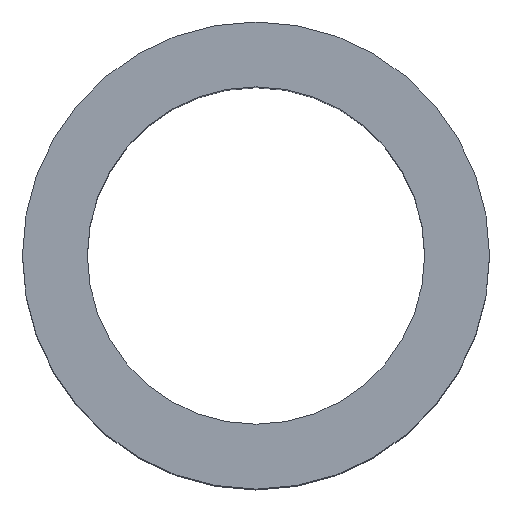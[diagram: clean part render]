
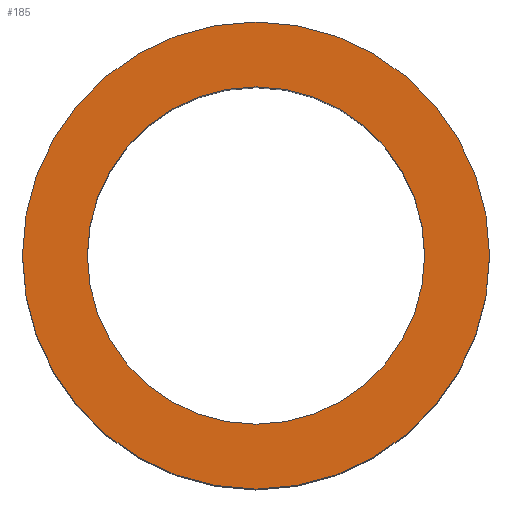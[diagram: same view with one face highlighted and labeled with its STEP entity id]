
A CAD part, top view. The second image highlights one B-rep face of the part: STEP entity #185.
In plain terms, the highlighted planar face has unit normal (0, 0, 1).
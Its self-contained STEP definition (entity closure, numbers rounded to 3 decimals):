
#185=ADVANCED_FACE('',(#211,#212),#209,.T.);
#209=PLANE('',#442);
#211=FACE_BOUND('',#215,.T.);
#212=FACE_BOUND('',#216,.T.);
#215=EDGE_LOOP('',(#241,#242));
#216=EDGE_LOOP('',(#243,#244));
#241=ORIENTED_EDGE('',*,*,#363,.T.);
#242=ORIENTED_EDGE('',*,*,#364,.T.);
#243=ORIENTED_EDGE('',*,*,#365,.F.);
#244=ORIENTED_EDGE('',*,*,#366,.F.);
#337=VERTEX_POINT('',#614);
#338=VERTEX_POINT('',#615);
#339=VERTEX_POINT('',#618);
#340=VERTEX_POINT('',#619);
#363=EDGE_CURVE('',#337,#338,#411,.T.);
#364=EDGE_CURVE('',#338,#337,#412,.T.);
#365=EDGE_CURVE('',#339,#340,#413,.T.);
#366=EDGE_CURVE('',#340,#339,#414,.T.);
#411=CIRCLE('',#438,9.);
#412=CIRCLE('',#439,9.);
#413=CIRCLE('',#440,6.5);
#414=CIRCLE('',#441,6.5);
#438=AXIS2_PLACEMENT_3D('',#613,#490,#491);
#439=AXIS2_PLACEMENT_3D('',#616,#492,#493);
#440=AXIS2_PLACEMENT_3D('',#617,#494,#495);
#441=AXIS2_PLACEMENT_3D('',#620,#496,#497);
#442=AXIS2_PLACEMENT_3D('',#621,#498,#499);
#490=DIRECTION('',(0.,0.,1.));
#491=DIRECTION('',(0.,-1.,0.));
#492=DIRECTION('',(0.,0.,1.));
#493=DIRECTION('',(0.,1.,0.));
#494=DIRECTION('',(0.,0.,1.));
#495=DIRECTION('',(0.,1.,0.));
#496=DIRECTION('',(0.,0.,1.));
#497=DIRECTION('',(0.,-1.,0.));
#498=DIRECTION('',(0.,0.,1.));
#499=DIRECTION('',(0.,-1.,0.));
#613=CARTESIAN_POINT('',(0.,0.,20.));
#614=CARTESIAN_POINT('',(9.,0.,20.));
#615=CARTESIAN_POINT('',(-9.,0.,20.));
#616=CARTESIAN_POINT('',(0.,0.,20.));
#617=CARTESIAN_POINT('',(0.,0.,20.));
#618=CARTESIAN_POINT('',(-6.5,0.,20.));
#619=CARTESIAN_POINT('',(6.5,0.,20.));
#620=CARTESIAN_POINT('',(0.,0.,20.));
#621=CARTESIAN_POINT('',(0.,0.,20.));
